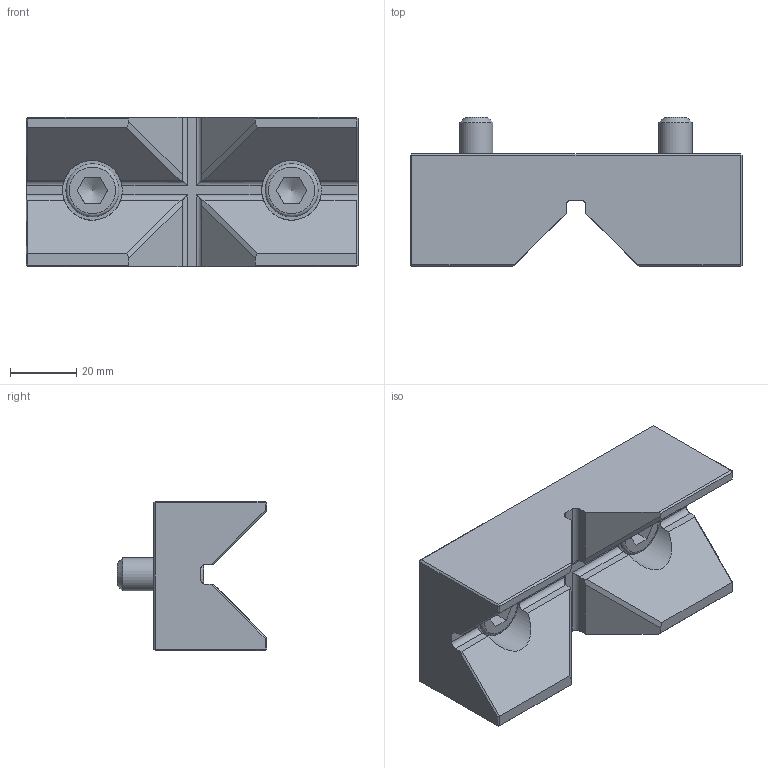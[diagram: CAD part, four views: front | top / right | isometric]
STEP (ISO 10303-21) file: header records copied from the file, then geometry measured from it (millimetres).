
FILE_DESCRIPTION(('STEP AP214'), '1');
FILE_NAME('BB.VS.100.70.020', '', ('UNSPECIFIED'), ('UNSPECIFIED'), 'C3D Converter', 'C3D Toolkit', '');
FILE_SCHEMA(('AUTOMOTIVE_DESIGN { 1 0 10303 214 3 1 1}'));
Length unit declared in the file: millimetre
Products named in the file (1): BB.VS.100.70.020 СБ
Bounding box: 100 x 45 x 45 mm (x, y, z)
Volume: 106027.9 mm3; surface area: 23315.4 mm2
Topology: 1 solids, 1 shells, 116 faces, 282 edges, 174 vertices
Faces by surface type: plane 84, cylinder 20, cone 8, torus 4
Full cylindrical faces by diameter (mm): 10 x2, 11 x2, 16 x2, 18 x2
Entity records: 4765 total; most frequent: CARTESIAN_POINT 1229, ORIENTED_EDGE 520, DIRECTION 502, EDGE_CURVE 260, LINE 192, VECTOR 192, VERTEX_POINT 172, AXIS2_PLACEMENT_3D 155
